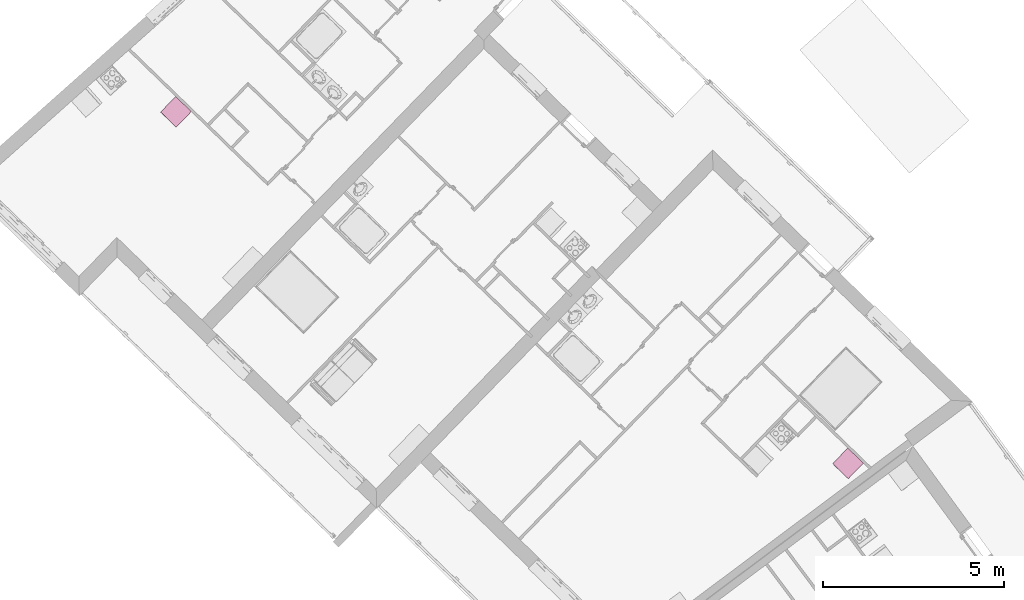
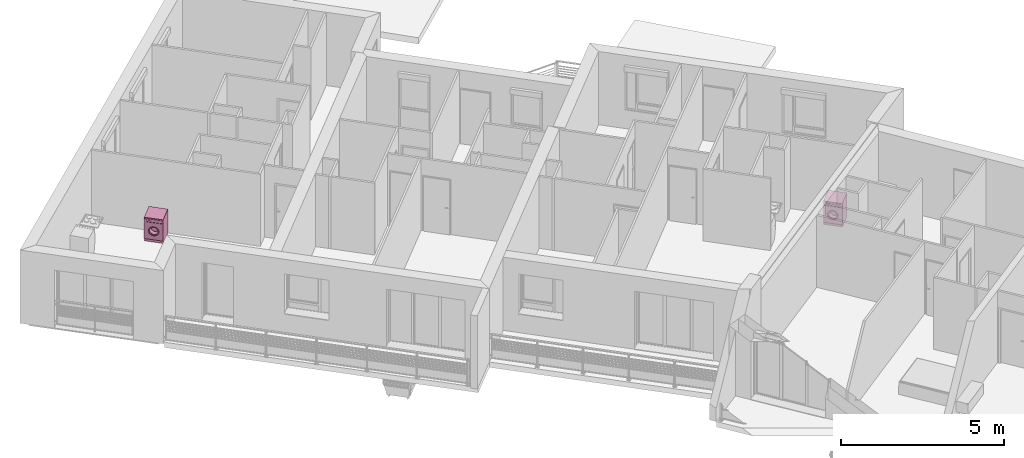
# One storey, part 98 of 121: 2 furnishings.
"""IFC2X3 building model written with IfcOpenShell, lengths in metres."""

from ifc_helpers import new_model, entity, si_unit, converted_unit, derived_unit, money_unit, direction, frame, origin_with_axes, place, context, subcontext, project, spatial, open_shell, faceted_brep, surface_model, source, transform, mapped, type_object, element, save


model = new_model("IFC2X3")

# Units and contexts
model_context = context("Model", 3, precision=1e-05, world=origin_with_axes(), true_north=direction((0.0, 1.0)))
body_context = subcontext(model_context, "Body", "Model", "MODEL_VIEW")
ifc_project = project(units=[si_unit("LENGTHUNIT", "METRE"), si_unit("AREAUNIT", "SQUARE_METRE"), si_unit("VOLUMEUNIT", "CUBIC_METRE"), converted_unit("PLANEANGLEUNIT", "DEGREE", entity("IfcPlaneAngleMeasure", 0.0174532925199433), si_unit("PLANEANGLEUNIT", "RADIAN"), dimensions=[0, 0, 0, 0, 0, 0, 0]), money_unit("CHF"), converted_unit("TIMEUNIT", "Year", entity("IfcTimeMeasure", 31557600.0), si_unit("TIMEUNIT", "SECOND"), dimensions=[0, 0, 1, 0, 0, 0, 0]), si_unit("MASSUNIT", "GRAM", prefix="KILO"), si_unit("THERMODYNAMICTEMPERATUREUNIT", "DEGREE_CELSIUS"), si_unit("LUMINOUSINTENSITYUNIT", "LUMEN"), si_unit("ENERGYUNIT", "JOULE", prefix="MEGA"), derived_unit("THERMALCONDUCTANCEUNIT", [(si_unit("POWERUNIT", "WATT"), 1), (si_unit("LENGTHUNIT", "METRE"), -1), (si_unit("THERMODYNAMICTEMPERATUREUNIT", "KELVIN"), -1)]), derived_unit("SPECIFICHEATCAPACITYUNIT", [(si_unit("ENERGYUNIT", "JOULE"), 1), (si_unit("MASSUNIT", "GRAM", prefix="KILO"), -1), (si_unit("THERMODYNAMICTEMPERATUREUNIT", "KELVIN"), -1)]), derived_unit("MASSDENSITYUNIT", [(si_unit("MASSUNIT", "GRAM", prefix="KILO"), 1), (si_unit("VOLUMEUNIT", "CUBIC_METRE"), -1)])], contexts=[model_context])

# Site, building, storey
site_placement = place(None, origin_with_axes())
site = spatial("IfcSite", under=ifc_project, at=site_placement, Name="Site", CompositionType="ELEMENT")
building_placement = place(site_placement, origin_with_axes())
building = spatial("IfcBuilding", under=site, at=building_placement, Name="Bâtiment", CompositionType="ELEMENT")
storey_placement = place(building_placement, frame((0.0, 0.0, 2.75), z_axis=(0.0, 0.0, 1.0), x_axis=(1.0, 0.0, 0.0)))
storey = spatial("IfcBuildingStorey", under=building, at=storey_placement, Name="Etage 1", CompositionType="ELEMENT", Elevation=2.75)

# Furnishings
furnishing_element_type = type_object("IfcFurnishingElementType", Name="Machine à laver")
shared_shape = source(origin_with_axes(), body_context, "Body", "SurfaceModel", [
    faceted_brep([(0.0, 0.02, 0.1), (0.6, 0.02, 0.1), (0.6, 0.0, 0.1), (0.0, 0.0, 0.1), (0.0, 0.02000000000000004, 0.74), (0.6, 0.02000000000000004, 0.74), (0.4714285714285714, 0.02000000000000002, 0.42), (0.4655872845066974, 0.02000000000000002, 0.4643689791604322), (0.448461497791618, 0.02000000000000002, 0.5057142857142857), (0.4212183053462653, 0.02000000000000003, 0.5412183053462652), (0.3857142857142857, 0.02000000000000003, 0.568461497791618), (0.3443689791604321, 0.02000000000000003, 0.5855872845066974), (0.3, 0.02000000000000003, 0.5914285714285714), (0.2556310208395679, 0.02000000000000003, 0.5855872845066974), (0.2142857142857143, 0.02000000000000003, 0.5684614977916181), (0.1787816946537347, 0.02000000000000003, 0.5412183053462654), (0.1515385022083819, 0.02000000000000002, 0.5057142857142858), (0.1344127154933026, 0.02000000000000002, 0.4643689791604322), (0.1285714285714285, 0.02000000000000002, 0.42), (0.1344127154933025, 0.02000000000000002, 0.3756310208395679), (0.1515385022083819, 0.02000000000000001, 0.3342857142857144), (0.1787816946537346, 0.02000000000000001, 0.2987816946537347), (0.2142857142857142, 0.02000000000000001, 0.2715385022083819), (0.2556310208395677, 0.02000000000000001, 0.2544127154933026), (0.2999999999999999, 0.02000000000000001, 0.2485714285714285), (0.344368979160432, 0.02000000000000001, 0.2544127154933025), (0.3857142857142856, 0.02000000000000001, 0.2715385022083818), (0.4212183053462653, 0.02000000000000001, 0.2987816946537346), (0.448461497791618, 0.02000000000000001, 0.3342857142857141), (0.4655872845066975, 0.02000000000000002, 0.3756310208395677), (0.6, 0.0, 0.74), (0.0, 0.0, 0.74), (0.4714285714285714, 0.0, 0.42), (0.4655872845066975, 0.0, 0.3756310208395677), (0.448461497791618, 0.0, 0.3342857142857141), (0.4212183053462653, 0.0, 0.2987816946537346), (0.3857142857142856, 0.0, 0.2715385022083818), (0.344368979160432, 0.0, 0.2544127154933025), (0.2999999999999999, 0.0, 0.2485714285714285), (0.2556310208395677, 0.0, 0.2544127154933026), (0.2142857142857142, 0.0, 0.2715385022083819), (0.1787816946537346, 0.0, 0.2987816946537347), (0.1515385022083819, 0.0, 0.3342857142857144), (0.1344127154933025, 0.0, 0.3756310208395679), (0.1285714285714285, 0.0, 0.42), (0.1344127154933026, 0.0, 0.4643689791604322), (0.1515385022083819, 0.0, 0.5057142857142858), (0.1787816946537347, 0.0, 0.5412183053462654), (0.2142857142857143, 0.0, 0.5684614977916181), (0.2556310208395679, 0.0, 0.5855872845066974), (0.3, 0.0, 0.5914285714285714), (0.3443689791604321, 0.0, 0.5855872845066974), (0.3857142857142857, 0.0, 0.568461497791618), (0.4212183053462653, 0.0, 0.5412183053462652), (0.448461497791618, 0.0, 0.5057142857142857), (0.4655872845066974, 0.0, 0.4643689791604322)], [[[0, 1, 2, 3]], [[0, 4, 5, 1], [6, 7, 8, 9, 10, 11, 12, 13, 14, 15, 16, 17, 18, 19, 20, 21, 22, 23, 24, 25, 26, 27, 28, 29]], [[1, 5, 30, 2]], [[3, 2, 30, 31], [32, 33, 34, 35, 36, 37, 38, 39, 40, 41, 42, 43, 44, 45, 46, 47, 48, 49, 50, 51, 52, 53, 54, 55]], [[4, 0, 3, 31]], [[5, 4, 31, 30]], [[7, 6, 32, 55]], [[8, 7, 55, 54]], [[9, 8, 54, 53]], [[10, 9, 53, 52]], [[11, 10, 52, 51]], [[12, 11, 51, 50]], [[13, 12, 50, 49]], [[14, 13, 49, 48]], [[15, 14, 48, 47]], [[16, 15, 47, 46]], [[17, 16, 46, 45]], [[18, 17, 45, 44]], [[19, 18, 44, 43]], [[20, 19, 43, 42]], [[21, 20, 42, 41]], [[22, 21, 41, 40]], [[23, 22, 40, 39]], [[24, 23, 39, 38]], [[25, 24, 38, 37]], [[26, 25, 37, 36]], [[27, 26, 36, 35]], [[28, 27, 35, 34]], [[29, 28, 34, 33]], [[6, 29, 33, 32]]]),
    faceted_brep([(0.4714285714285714, 0.04000000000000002, 0.42), (0.4655872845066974, 0.04000000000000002, 0.4643689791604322), (0.4655872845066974, 0.02000000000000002, 0.4643689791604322), (0.4714285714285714, 0.02000000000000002, 0.42), (0.4655872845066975, 0.04000000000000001, 0.3756310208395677), (0.448461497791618, 0.04000000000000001, 0.3342857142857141), (0.4212183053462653, 0.04000000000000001, 0.2987816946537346), (0.3857142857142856, 0.04000000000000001, 0.2715385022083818), (0.344368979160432, 0.04000000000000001, 0.2544127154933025), (0.2999999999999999, 0.04000000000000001, 0.2485714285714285), (0.2556310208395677, 0.04000000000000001, 0.2544127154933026), (0.2142857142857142, 0.04000000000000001, 0.2715385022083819), (0.1787816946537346, 0.04000000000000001, 0.2987816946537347), (0.1515385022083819, 0.04000000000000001, 0.3342857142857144), (0.1344127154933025, 0.04000000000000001, 0.3756310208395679), (0.1285714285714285, 0.04000000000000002, 0.42), (0.1344127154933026, 0.04000000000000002, 0.4643689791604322), (0.1515385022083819, 0.04000000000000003, 0.5057142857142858), (0.1787816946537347, 0.04000000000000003, 0.5412183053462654), (0.2142857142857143, 0.04000000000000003, 0.5684614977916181), (0.2556310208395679, 0.04000000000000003, 0.5855872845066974), (0.3, 0.04000000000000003, 0.5914285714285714), (0.3443689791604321, 0.04000000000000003, 0.5855872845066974), (0.3857142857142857, 0.04000000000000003, 0.568461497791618), (0.4212183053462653, 0.04000000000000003, 0.5412183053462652), (0.448461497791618, 0.04000000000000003, 0.5057142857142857), (0.4371428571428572, 0.04000000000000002, 0.42), (0.432469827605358, 0.04000000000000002, 0.4554951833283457), (0.4187691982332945, 0.04000000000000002, 0.4885714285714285), (0.3969746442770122, 0.04000000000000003, 0.5169746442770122), (0.3685714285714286, 0.04000000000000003, 0.5387691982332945), (0.3354951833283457, 0.04000000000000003, 0.552469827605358), (0.3, 0.04000000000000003, 0.5571428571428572), (0.2645048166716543, 0.04000000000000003, 0.552469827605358), (0.2314285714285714, 0.04000000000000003, 0.5387691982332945), (0.2030253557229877, 0.04000000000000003, 0.5169746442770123), (0.1812308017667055, 0.04000000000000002, 0.4885714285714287), (0.167530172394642, 0.04000000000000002, 0.4554951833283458), (0.1628571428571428, 0.04000000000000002, 0.42), (0.167530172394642, 0.04000000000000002, 0.3845048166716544), (0.1812308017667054, 0.04000000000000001, 0.3514285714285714), (0.2030253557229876, 0.04000000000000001, 0.3230253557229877), (0.2314285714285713, 0.04000000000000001, 0.3012308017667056), (0.2645048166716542, 0.04000000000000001, 0.287530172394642), (0.2999999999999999, 0.04000000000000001, 0.2828571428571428), (0.3354951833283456, 0.04000000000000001, 0.287530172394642), (0.3685714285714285, 0.04000000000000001, 0.3012308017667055), (0.3969746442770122, 0.04000000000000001, 0.3230253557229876), (0.4187691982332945, 0.04000000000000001, 0.3514285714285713), (0.432469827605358, 0.04000000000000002, 0.3845048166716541), (0.448461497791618, 0.02000000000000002, 0.5057142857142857), (0.4212183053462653, 0.02000000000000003, 0.5412183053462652), (0.3857142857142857, 0.02000000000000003, 0.568461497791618), (0.3443689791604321, 0.02000000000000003, 0.5855872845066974), (0.3, 0.02000000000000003, 0.5914285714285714), (0.2556310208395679, 0.02000000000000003, 0.5855872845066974), (0.2142857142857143, 0.02000000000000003, 0.5684614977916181), (0.1787816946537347, 0.02000000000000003, 0.5412183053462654), (0.1515385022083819, 0.02000000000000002, 0.5057142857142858), (0.1344127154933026, 0.02000000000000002, 0.4643689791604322), (0.1285714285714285, 0.02000000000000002, 0.42), (0.1344127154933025, 0.02000000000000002, 0.3756310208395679), (0.1515385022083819, 0.02000000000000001, 0.3342857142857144), (0.1787816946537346, 0.02000000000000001, 0.2987816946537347), (0.2142857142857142, 0.02000000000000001, 0.2715385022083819), (0.2556310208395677, 0.02000000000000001, 0.2544127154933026), (0.2999999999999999, 0.02000000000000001, 0.2485714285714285), (0.344368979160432, 0.02000000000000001, 0.2544127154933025), (0.3857142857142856, 0.02000000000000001, 0.2715385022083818), (0.4212183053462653, 0.02000000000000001, 0.2987816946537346), (0.448461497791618, 0.02000000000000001, 0.3342857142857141), (0.4655872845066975, 0.02000000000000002, 0.3756310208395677), (0.4371428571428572, 0.02000000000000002, 0.42), (0.432469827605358, 0.02000000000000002, 0.3845048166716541), (0.4187691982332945, 0.02000000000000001, 0.3514285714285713), (0.3969746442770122, 0.02000000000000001, 0.3230253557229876), (0.3685714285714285, 0.02000000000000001, 0.3012308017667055), (0.3354951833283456, 0.02000000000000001, 0.287530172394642), (0.2999999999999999, 0.02000000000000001, 0.2828571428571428), (0.2645048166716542, 0.02000000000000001, 0.287530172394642), (0.2314285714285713, 0.02000000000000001, 0.3012308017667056), (0.2030253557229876, 0.02000000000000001, 0.3230253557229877), (0.1812308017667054, 0.02000000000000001, 0.3514285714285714), (0.167530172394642, 0.02000000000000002, 0.3845048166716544), (0.1628571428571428, 0.02000000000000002, 0.42), (0.167530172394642, 0.02000000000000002, 0.4554951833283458), (0.1812308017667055, 0.02000000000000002, 0.4885714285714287), (0.2030253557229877, 0.02000000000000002, 0.5169746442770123), (0.2314285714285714, 0.02000000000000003, 0.5387691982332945), (0.2645048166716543, 0.02000000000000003, 0.552469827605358), (0.3, 0.02000000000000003, 0.5571428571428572), (0.3354951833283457, 0.02000000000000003, 0.552469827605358), (0.3685714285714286, 0.02000000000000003, 0.5387691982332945), (0.3969746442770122, 0.02000000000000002, 0.5169746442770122), (0.4187691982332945, 0.02000000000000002, 0.4885714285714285), (0.432469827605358, 0.02000000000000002, 0.4554951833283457)], [[[0, 1, 2, 3]], [[0, 4, 5, 6, 7, 8, 9, 10, 11, 12, 13, 14, 15, 16, 17, 18, 19, 20, 21, 22, 23, 24, 25, 1], [26, 27, 28, 29, 30, 31, 32, 33, 34, 35, 36, 37, 38, 39, 40, 41, 42, 43, 44, 45, 46, 47, 48, 49]], [[1, 25, 50, 2]], [[3, 2, 50, 51, 52, 53, 54, 55, 56, 57, 58, 59, 60, 61, 62, 63, 64, 65, 66, 67, 68, 69, 70, 71], [72, 73, 74, 75, 76, 77, 78, 79, 80, 81, 82, 83, 84, 85, 86, 87, 88, 89, 90, 91, 92, 93, 94, 95]], [[4, 0, 3, 71]], [[5, 4, 71, 70]], [[6, 5, 70, 69]], [[7, 6, 69, 68]], [[8, 7, 68, 67]], [[9, 8, 67, 66]], [[10, 9, 66, 65]], [[11, 10, 65, 64]], [[12, 11, 64, 63]], [[13, 12, 63, 62]], [[14, 13, 62, 61]], [[15, 14, 61, 60]], [[16, 15, 60, 59]], [[17, 16, 59, 58]], [[18, 17, 58, 57]], [[19, 18, 57, 56]], [[20, 19, 56, 55]], [[21, 20, 55, 54]], [[22, 21, 54, 53]], [[23, 22, 53, 52]], [[24, 23, 52, 51]], [[25, 24, 51, 50]], [[27, 26, 72, 95]], [[28, 27, 95, 94]], [[29, 28, 94, 93]], [[30, 29, 93, 92]], [[31, 30, 92, 91]], [[32, 31, 91, 90]], [[33, 32, 90, 89]], [[34, 33, 89, 88]], [[35, 34, 88, 87]], [[36, 35, 87, 86]], [[37, 36, 86, 85]], [[38, 37, 85, 84]], [[39, 38, 84, 83]], [[40, 39, 83, 82]], [[41, 40, 82, 81]], [[42, 41, 81, 80]], [[43, 42, 80, 79]], [[44, 43, 79, 78]], [[45, 44, 78, 77]], [[46, 45, 77, 76]], [[47, 46, 76, 75]], [[48, 47, 75, 74]], [[49, 48, 74, 73]], [[26, 49, 73, 72]]]),
    surface_model("IfcShellBasedSurfaceModel", [(0.2645048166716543, 0.03999999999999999, 0.552469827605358), (0.3, 0.03999999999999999, 0.5571428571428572), (0.3, 0.14, 0.5228571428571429), (0.2733786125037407, 0.14, 0.5193523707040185), (0.3354951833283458, 0.03999999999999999, 0.552469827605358), (0.3266213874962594, 0.14, 0.5193523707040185), (0.3514285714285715, 0.14, 0.5090768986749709), (0.3727309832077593, 0.14, 0.4927309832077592), (0.3890768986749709, 0.14, 0.4714285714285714), (0.3993523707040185, 0.14, 0.4466213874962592), (0.4028571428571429, 0.14, 0.42), (0.3993523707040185, 0.14, 0.3933786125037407), (0.3890768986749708, 0.14, 0.3685714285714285), (0.3727309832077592, 0.14, 0.3472690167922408), (0.3514285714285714, 0.14, 0.3309231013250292), (0.3266213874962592, 0.14, 0.3206476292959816), (0.2999999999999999, 0.14, 0.3171428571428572), (0.2733786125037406, 0.14, 0.3206476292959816), (0.2485714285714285, 0.14, 0.3309231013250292), (0.2272690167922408, 0.14, 0.3472690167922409), (0.2109231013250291, 0.14, 0.3685714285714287), (0.2006476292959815, 0.14, 0.3933786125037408), (0.1971428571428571, 0.14, 0.4200000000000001), (0.2006476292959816, 0.14, 0.4466213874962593), (0.2109231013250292, 0.14, 0.4714285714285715), (0.2272690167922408, 0.14, 0.4927309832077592), (0.2485714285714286, 0.14, 0.5090768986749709), (0.2314285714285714, 0.03999999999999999, 0.5387691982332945), (0.3685714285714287, 0.03999999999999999, 0.5387691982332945), (0.3969746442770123, 0.03999999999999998, 0.5169746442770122), (0.4187691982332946, 0.03999999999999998, 0.4885714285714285), (0.432469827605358, 0.03999999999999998, 0.4554951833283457), (0.4371428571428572, 0.03999999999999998, 0.4199999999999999), (0.432469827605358, 0.03999999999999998, 0.3845048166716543), (0.4187691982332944, 0.03999999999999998, 0.3514285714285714), (0.3969746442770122, 0.03999999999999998, 0.3230253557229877), (0.3685714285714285, 0.03999999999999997, 0.3012308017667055), (0.3354951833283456, 0.03999999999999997, 0.2875301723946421), (0.2999999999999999, 0.03999999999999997, 0.2828571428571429), (0.2645048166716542, 0.03999999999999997, 0.2875301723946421), (0.2314285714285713, 0.03999999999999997, 0.3012308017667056), (0.2030253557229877, 0.03999999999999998, 0.3230253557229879), (0.1812308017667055, 0.03999999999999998, 0.3514285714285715), (0.167530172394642, 0.03999999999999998, 0.3845048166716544), (0.1628571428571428, 0.03999999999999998, 0.4200000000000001), (0.167530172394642, 0.03999999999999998, 0.4554951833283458), (0.1812308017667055, 0.03999999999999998, 0.4885714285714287), (0.2030253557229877, 0.03999999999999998, 0.5169746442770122)], [open_shell([[[0, 1, 2, 3]], [[1, 4, 5, 2]], [[2, 5, 6, 7, 8, 9, 10, 11, 12, 13, 14, 15, 16, 17, 18, 19, 20, 21, 22, 23, 24, 25, 26, 3]], [[27, 0, 3, 26]], [[4, 28, 6, 5]], [[28, 29, 7, 6]], [[29, 30, 8, 7]], [[30, 31, 9, 8]], [[31, 32, 10, 9]], [[32, 33, 11, 10]], [[33, 34, 12, 11]], [[34, 35, 13, 12]], [[35, 36, 14, 13]], [[36, 37, 15, 14]], [[37, 38, 16, 15]], [[38, 39, 17, 16]], [[39, 40, 18, 17]], [[40, 41, 19, 18]], [[41, 42, 20, 19]], [[42, 43, 21, 20]], [[43, 44, 22, 21]], [[44, 45, 23, 22]], [[45, 46, 24, 23]], [[46, 47, 25, 24]], [[47, 27, 26, 25]]])]),
    surface_model("IfcShellBasedSurfaceModel", [(0.0, 0.02, 0.1), (0.0, 0.02000000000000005, 0.87), (0.0, 0.6, 0.87), (0.0, 0.6, 0.09999999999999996)], [open_shell([[[0, 1, 2, 3]]])]),
    surface_model("IfcShellBasedSurfaceModel", [(0.6, 0.01999999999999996, 0.1), (0.6, 0.02000000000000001, 0.87), (0.6, 0.5999999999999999, 0.87), (0.6, 0.5999999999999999, 0.09999999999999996)], [open_shell([[[0, 1, 2, 3]]])]),
    surface_model("IfcShellBasedSurfaceModel", [(0.0, 0.6, 0.1), (0.0, 0.6, 0.87), (0.6, 0.6, 0.87), (0.6, 0.6, 0.1)], [open_shell([[[0, 1, 2, 3]]])]),
    faceted_brep([(0.0, 0.02, 0.0), (0.6, 0.02, 0.0), (0.6, 0.02, 0.1), (0.0, 0.02, 0.1), (0.0, 0.6, 0.0), (0.6, 0.6, 0.0), (0.6, 0.6, 0.1), (0.0, 0.6, 0.1)], [[[0, 1, 2, 3]], [[0, 4, 5, 1]], [[1, 5, 6, 2]], [[3, 2, 6, 7]], [[4, 0, 3, 7]], [[5, 4, 7, 6]]]),
    faceted_brep([(0.0, 0.02, 0.75), (0.6, 0.02, 0.75), (0.6, 0.0, 0.75), (0.0, 0.0, 0.75), (0.0, 0.02000000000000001, 0.86), (0.6, 0.02000000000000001, 0.86), (0.6, 0.0, 0.86), (0.0, 0.0, 0.86)], [[[0, 1, 2, 3]], [[0, 4, 5, 1]], [[1, 5, 6, 2]], [[3, 2, 6, 7]], [[4, 0, 3, 7]], [[5, 4, 7, 6]]]),
    surface_model("IfcShellBasedSurfaceModel", [(0.0, 0.02, 0.74), (0.0, 0.02000000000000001, 0.87), (0.6, 0.02000000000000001, 0.87), (0.6, 0.02, 0.74)], [open_shell([[[0, 1, 2, 3]]])]),
    faceted_brep([(0.0, 0.0, 0.87), (0.6, 0.0, 0.87), (0.6, 0.0, 0.9), (0.0, 0.0, 0.9), (0.0, 0.6, 0.87), (0.6, 0.6, 0.87), (0.6, 0.6, 0.9), (0.0, 0.6, 0.9)], [[[0, 1, 2, 3]], [[0, 4, 5, 1]], [[1, 5, 6, 2]], [[3, 2, 6, 7]], [[4, 0, 3, 7]], [[5, 4, 7, 6]]]),
    faceted_brep([(0.06866025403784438, 0.0, 0.8049999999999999), (0.06499999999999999, 0.0, 0.8013397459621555), (0.05999999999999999, 0.0, 0.7999999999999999), (0.05499999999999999, 0.0, 0.8013397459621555), (0.05133974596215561, 0.0, 0.8049999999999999), (0.05, 0.0, 0.8099999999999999), (0.05133974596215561, 0.0, 0.815), (0.055, 0.0, 0.8186602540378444), (0.06, 0.0, 0.82), (0.065, 0.0, 0.8186602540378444), (0.06866025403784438, 0.0, 0.815), (0.06999999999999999, 0.0, 0.8099999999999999), (0.06866025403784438, -0.01, 0.8049999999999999), (0.06499999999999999, -0.01, 0.8013397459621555), (0.05999999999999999, -0.01, 0.7999999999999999), (0.05499999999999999, -0.01, 0.8013397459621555), (0.05133974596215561, -0.01, 0.8049999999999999), (0.05, -0.01, 0.8099999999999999), (0.05133974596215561, -0.01, 0.815), (0.055, -0.01, 0.8186602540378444), (0.06, -0.01, 0.82), (0.065, -0.01, 0.8186602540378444), (0.06866025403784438, -0.01, 0.815), (0.06999999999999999, -0.01, 0.8099999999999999)], [[[0, 1, 2, 3, 4, 5, 6, 7, 8, 9, 10, 11]], [[1, 0, 12, 13]], [[2, 1, 13, 14]], [[3, 2, 14, 15]], [[4, 3, 15, 16]], [[5, 4, 16, 17]], [[6, 5, 17, 18]], [[7, 6, 18, 19]], [[8, 7, 19, 20]], [[9, 8, 20, 21]], [[10, 9, 21, 22]], [[11, 10, 22, 23]], [[0, 11, 23, 12]], [[12, 23, 22, 21, 20, 19, 18, 17, 16, 15, 14, 13]]]),
    faceted_brep([(0.1086602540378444, 0.0, 0.8049999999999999), (0.105, 0.0, 0.8013397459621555), (0.09999999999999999, 0.0, 0.7999999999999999), (0.095, 0.0, 0.8013397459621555), (0.09133974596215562, 0.0, 0.8049999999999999), (0.09000000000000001, 0.0, 0.8099999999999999), (0.09133974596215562, 0.0, 0.815), (0.095, 0.0, 0.8186602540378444), (0.1, 0.0, 0.82), (0.105, 0.0, 0.8186602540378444), (0.1086602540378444, 0.0, 0.815), (0.11, 0.0, 0.8099999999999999), (0.1086602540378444, -0.01, 0.8049999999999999), (0.105, -0.01, 0.8013397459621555), (0.09999999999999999, -0.01, 0.7999999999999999), (0.095, -0.01, 0.8013397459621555), (0.09133974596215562, -0.01, 0.8049999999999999), (0.09000000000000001, -0.01, 0.8099999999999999), (0.09133974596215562, -0.01, 0.815), (0.095, -0.01, 0.8186602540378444), (0.1, -0.01, 0.82), (0.105, -0.01, 0.8186602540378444), (0.1086602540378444, -0.01, 0.815), (0.11, -0.01, 0.8099999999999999)], [[[0, 1, 2, 3, 4, 5, 6, 7, 8, 9, 10, 11]], [[1, 0, 12, 13]], [[2, 1, 13, 14]], [[3, 2, 14, 15]], [[4, 3, 15, 16]], [[5, 4, 16, 17]], [[6, 5, 17, 18]], [[7, 6, 18, 19]], [[8, 7, 19, 20]], [[9, 8, 20, 21]], [[10, 9, 21, 22]], [[11, 10, 22, 23]], [[0, 11, 23, 12]], [[12, 23, 22, 21, 20, 19, 18, 17, 16, 15, 14, 13]]]),
    faceted_brep([(0.1486602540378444, 0.0, 0.8049999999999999), (0.145, 0.0, 0.8013397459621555), (0.14, 0.0, 0.7999999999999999), (0.135, 0.0, 0.8013397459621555), (0.1313397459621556, 0.0, 0.8049999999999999), (0.13, 0.0, 0.8099999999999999), (0.1313397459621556, 0.0, 0.815), (0.135, 0.0, 0.8186602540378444), (0.14, 0.0, 0.82), (0.145, 0.0, 0.8186602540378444), (0.1486602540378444, 0.0, 0.815), (0.15, 0.0, 0.8099999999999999), (0.1486602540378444, -0.01, 0.8049999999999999), (0.145, -0.01, 0.8013397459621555), (0.14, -0.01, 0.7999999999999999), (0.135, -0.01, 0.8013397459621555), (0.1313397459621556, -0.01, 0.8049999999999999), (0.13, -0.01, 0.8099999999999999), (0.1313397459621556, -0.01, 0.815), (0.135, -0.01, 0.8186602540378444), (0.14, -0.01, 0.82), (0.145, -0.01, 0.8186602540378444), (0.1486602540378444, -0.01, 0.815), (0.15, -0.01, 0.8099999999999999)], [[[0, 1, 2, 3, 4, 5, 6, 7, 8, 9, 10, 11]], [[1, 0, 12, 13]], [[2, 1, 13, 14]], [[3, 2, 14, 15]], [[4, 3, 15, 16]], [[5, 4, 16, 17]], [[6, 5, 17, 18]], [[7, 6, 18, 19]], [[8, 7, 19, 20]], [[9, 8, 20, 21]], [[10, 9, 21, 22]], [[11, 10, 22, 23]], [[0, 11, 23, 12]], [[12, 23, 22, 21, 20, 19, 18, 17, 16, 15, 14, 13]]]),
    faceted_brep([(0.1886602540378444, 0.0, 0.8049999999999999), (0.185, 0.0, 0.8013397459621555), (0.18, 0.0, 0.7999999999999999), (0.175, 0.0, 0.8013397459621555), (0.1713397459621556, 0.0, 0.8049999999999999), (0.17, 0.0, 0.8099999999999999), (0.1713397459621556, 0.0, 0.815), (0.175, 0.0, 0.8186602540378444), (0.18, 0.0, 0.82), (0.185, 0.0, 0.8186602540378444), (0.1886602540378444, 0.0, 0.815), (0.19, 0.0, 0.8099999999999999), (0.1886602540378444, -0.01, 0.8049999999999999), (0.185, -0.01, 0.8013397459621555), (0.18, -0.01, 0.7999999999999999), (0.175, -0.01, 0.8013397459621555), (0.1713397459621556, -0.01, 0.8049999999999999), (0.17, -0.01, 0.8099999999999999), (0.1713397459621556, -0.01, 0.815), (0.175, -0.01, 0.8186602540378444), (0.18, -0.01, 0.82), (0.185, -0.01, 0.8186602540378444), (0.1886602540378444, -0.01, 0.815), (0.19, -0.01, 0.8099999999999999)], [[[0, 1, 2, 3, 4, 5, 6, 7, 8, 9, 10, 11]], [[1, 0, 12, 13]], [[2, 1, 13, 14]], [[3, 2, 14, 15]], [[4, 3, 15, 16]], [[5, 4, 16, 17]], [[6, 5, 17, 18]], [[7, 6, 18, 19]], [[8, 7, 19, 20]], [[9, 8, 20, 21]], [[10, 9, 21, 22]], [[11, 10, 22, 23]], [[0, 11, 23, 12]], [[12, 23, 22, 21, 20, 19, 18, 17, 16, 15, 14, 13]]]),
])
for number, where, z_axis, x_axis, name in (
    (1, (9516.769306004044, -1060.516567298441, 57.7), (0.0, 0.0, 1.0), (0.7181764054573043, -0.6958610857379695, 0.0), "Obj.-019"),
    (2, (9535.300790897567, -1070.209211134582, 57.7), (0.0, 0.0, 1.0), (0.7181763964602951, -0.6958610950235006, 0.0), "Obj.-019"),
):
    element("IfcFurnishingElement", number, at=place(storey_placement, frame(where, z_axis=z_axis, x_axis=x_axis)), inside=storey, type_object=furnishing_element_type, Name=name, context=body_context, shape_type="MappedRepresentation", body=[
        mapped(shared_shape, transform((0.0, 0.0, 0.0))),
    ])

save(model, "model.ifc")
